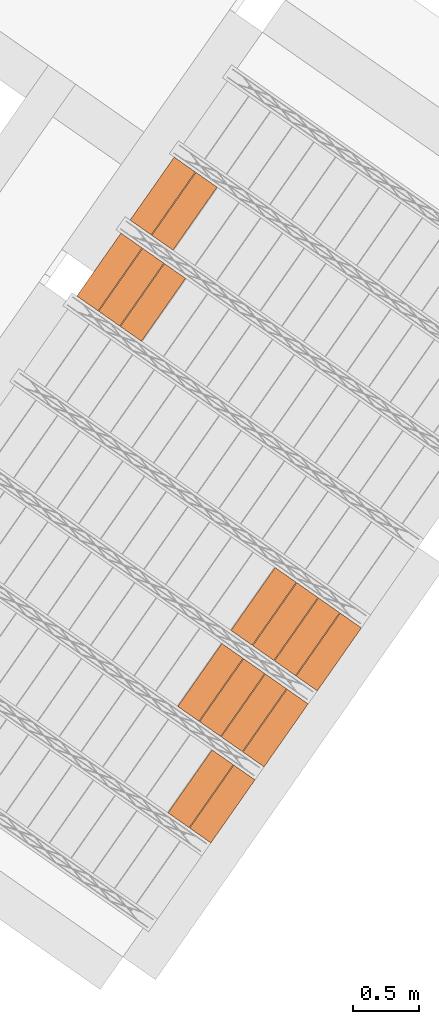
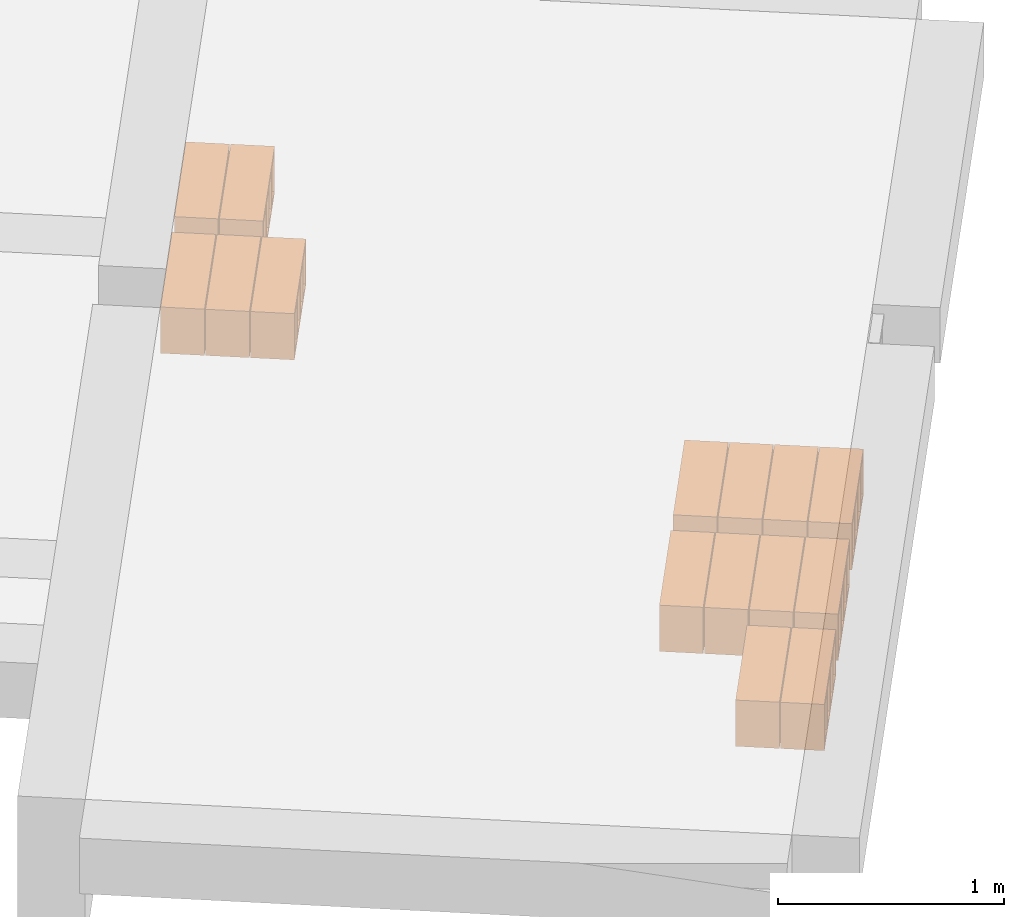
# One storey, part 37 of 46: 15 proxies.
"""IFC2X3 building model written with IfcOpenShell, lengths in metres."""

import ifcopenshell
import ifcopenshell.guid

model = None  # the IFC model being written
_history = None  # IfcOwnerHistory: only IFC2X3 demands one
_inside = {}  # id of a spatial element -> (the spatial element, [elements in it])
_under = {}  # id of a project, library or spatial element -> (it, [spatial elements below it])
_declared = {}  # id of a project -> (the project, [libraries it declares])
_typed = {}  # id of a type object -> (the type object, [elements of that type])
_made_of = {}  # id of a material, layer set ... -> (it, [elements and type objects made of it])


def new_model(schema):
    """Start an empty IFC model of exactly this schema.

    Asked for "IFC4X3", IfcOpenShell would pick the latest addendum, in which some entities
    have other attributes; the version numbers below select the first issue.
    IFC2X3 requires an IfcOwnerHistory on every rooted entity: one is made here for all.
    """
    global model, _history
    if schema == "IFC4X3":
        model = ifcopenshell.file(schema_version=(4, 3, 0, 0))
    else:
        model = ifcopenshell.file(schema=schema)
    _inside.clear()
    _under.clear()
    _declared.clear()
    _typed.clear()
    _made_of.clear()
    _history = None
    if model.schema == "IFC2X3":
        org = make("IfcOrganization", Name="unknown")
        user = make(
            "IfcPersonAndOrganization",
            ThePerson=make("IfcPerson", FamilyName="unknown"),
            TheOrganization=org,
        )
        app = make(
            "IfcApplication",
            ApplicationDeveloper=org,
            Version="unknown",
            ApplicationFullName="unknown",
            ApplicationIdentifier="unknown",
        )
        _history = make(
            "IfcOwnerHistory",
            OwningUser=user,
            OwningApplication=app,
            ChangeAction="ADDED",
            CreationDate=0,
        )
    return model


def make(cls, **values):
    """One entity of the class cls with the attributes given. An attribute that is None is left unset."""
    return model.create_entity(
        cls, **{name: value for name, value in values.items() if value is not None}
    )


def entity(cls, *values):
    """Any entity or typed value of the class cls, its attributes in the order of the schema. None: left unset."""
    e = model.create_entity(cls)
    for i, value in enumerate(values):
        if value is not None:
            e[i] = value
    return e


def rooted(cls, **values):
    """An entity with a GlobalId (a new one), such as an element, a storey or a relation."""
    return make(cls, GlobalId=ifcopenshell.guid.new(), OwnerHistory=_history, **values)


def si_unit(unit_type, name, prefix=None):
    """IfcSIUnit, for example si_unit("LENGTHUNIT", "METRE", prefix="MILLI")."""
    return make("IfcSIUnit", UnitType=unit_type, Prefix=prefix, Name=name)


def converted_unit(unit_type, name, factor, base, dimensions=None, offset=None):
    """IfcConversionBasedUnit, such as the inch: factor (a typed value) times the base unit."""
    return make(
        "IfcConversionBasedUnit"
        if offset is None
        else "IfcConversionBasedUnitWithOffset",
        ConversionOffset=offset,
        Dimensions=None
        if dimensions is None
        else entity("IfcDimensionalExponents", *dimensions),
        UnitType=unit_type,
        Name=name,
        ConversionFactor=make(
            "IfcMeasureWithUnit", ValueComponent=factor, UnitComponent=base
        ),
    )


def derived_unit(unit_type, elements):
    """IfcDerivedUnit: a product of units, each with its exponent."""
    return make(
        "IfcDerivedUnit",
        Elements=[
            make("IfcDerivedUnitElement", Unit=unit, Exponent=power)
            for unit, power in elements
        ],
        UnitType=unit_type,
    )


def assignment(units):
    """IfcUnitAssignment: the units of a project."""
    return None if units is None else make("IfcUnitAssignment", Units=units)


def point(xyz):
    """IfcCartesianPoint."""
    return None if xyz is None else make("IfcCartesianPoint", Coordinates=xyz)


def direction(xyz):
    """IfcDirection."""
    return None if xyz is None else make("IfcDirection", DirectionRatios=xyz)


def frame(location, z_axis=None, x_axis=None):
    """IfcAxis2Placement3D, a coordinate frame: its origin and axes. An axis left out is left unset."""
    return make(
        "IfcAxis2Placement3D",
        Location=point(location),
        Axis=direction(z_axis),
        RefDirection=direction(x_axis),
    )


def origin():
    """The frame at (0, 0, 0) with its axes left unset."""
    return frame((0.0, 0.0, 0.0))


def place(relative_to, where):
    """IfcLocalPlacement: puts the frame where relative to a parent placement (None: the world)."""
    return make(
        "IfcLocalPlacement", PlacementRelTo=relative_to, RelativePlacement=where
    )


def context(
    kind, dimensions, precision=None, world=None, true_north=None, identifier=None
):
    """IfcGeometricRepresentationContext, for example the 3D "Model" context."""
    return make(
        "IfcGeometricRepresentationContext",
        ContextIdentifier=identifier,
        ContextType=kind,
        CoordinateSpaceDimension=dimensions,
        Precision=precision,
        WorldCoordinateSystem=world,
        TrueNorth=true_north,
    )


def subcontext(parent, identifier, kind, view, scale=None):
    """IfcGeometricRepresentationSubContext, for example "Body" below "Model"."""
    return make(
        "IfcGeometricRepresentationSubContext",
        ContextIdentifier=identifier,
        ContextType=kind,
        ParentContext=parent,
        TargetScale=scale,
        TargetView=view,
    )


def project(units=None, contexts=None):
    """IfcProject with its units and contexts."""
    return rooted(
        "IfcProject",
        Name="project",
        RepresentationContexts=contexts,
        UnitsInContext=assignment(units),
    )


def spatial(cls, under=None, at=None, **own):
    """A site, building, storey or space (cls), placed at a placement, below another one or the project."""
    s = rooted(cls, ObjectPlacement=at, **own)
    if under is not None:
        _under.setdefault(under.id(), (under, []))[1].append(s)
    return s


def polyline(points):
    """IfcPolyline through the points."""
    return make("IfcPolyline", Points=[point(p) for p in points])


def outline(outer, holes=None, kind="AREA"):
    """IfcArbitraryClosedProfileDef: a profile drawn as a closed curve; with holes, ...WithVoids."""
    if holes is None:
        return make("IfcArbitraryClosedProfileDef", ProfileType=kind, OuterCurve=outer)
    return make(
        "IfcArbitraryProfileDefWithVoids",
        ProfileType=kind,
        OuterCurve=outer,
        InnerCurves=holes,
    )


def extrude(swept, where, along, depth):
    """IfcExtrudedAreaSolid: the profile swept, set in the frame where, extruded along a direction by depth."""
    return make(
        "IfcExtrudedAreaSolid",
        SweptArea=swept,
        Position=where,
        ExtrudedDirection=direction(along),
        Depth=depth,
    )


def shape(context_of_items, identifier, shape_type, items):
    """IfcShapeRepresentation: the items that make up one representation, for example the "Body"."""
    return make(
        "IfcShapeRepresentation",
        ContextOfItems=context_of_items,
        RepresentationIdentifier=identifier,
        RepresentationType=shape_type,
        Items=items,
    )


def made_of(thing, what):
    """Note that an element or type object is made of a material, layer set ...; save() writes the relation."""
    if what is not None:
        _made_of.setdefault(what.id(), (what, []))[1].append(thing)
    return thing


def type_object(cls, material=None, **own):
    """A type object (cls), such as IfcWallType, which elements share."""
    return made_of(rooted(cls, **own), material)


def element(
    cls,
    number,
    at=None,
    inside=None,
    cuts=None,
    type_object=None,
    material=None,
    context=None,
    identifier="Body",
    shape_type=None,
    held_by="IfcProductDefinitionShape",
    body=None,
    shapes=None,
    **own,
):
    """One element of the class cls, such as IfcWall. Its Tag is "e" and its number.

    at: its placement. inside: the storey or other place that contains it. cuts: it is an
    opening in that element (IfcRelVoidsElement). A single representation is given by context,
    identifier, shape_type and body (its items); several are given by shapes. held_by: the class
    of the entity that holds the representations. save() writes the other relations.
    """
    e = rooted(cls, Tag="e%d" % number, ObjectPlacement=at, **own)
    if body is not None:
        shapes = [shape(context, identifier, shape_type, body)]
    if shapes is not None:
        e.Representation = make(held_by, Representations=shapes)
    if inside is not None:
        _inside.setdefault(inside.id(), (inside, []))[1].append(e)
    if cuts is not None:
        rooted(
            "IfcRelVoidsElement", RelatingBuildingElement=cuts, RelatedOpeningElement=e
        )
    if type_object is not None:
        _typed.setdefault(type_object.id(), (type_object, []))[1].append(e)
    return made_of(e, material)


def aggregate(whole, parts):
    """IfcRelAggregates: a whole, such as a stair, and the parts it consists of."""
    return rooted("IfcRelAggregates", RelatingObject=whole, RelatedObjects=parts)


def save(model, path):
    """Write the relations noted so far, then the file.

    IfcRelAggregates (storeys below a building ...), IfcRelContainedInSpatialStructure (elements
    in a storey), IfcRelDefinesByType, IfcRelAssociatesMaterial and IfcRelDeclares: one each for
    every whole, place, type object, material and project.
    """
    for whole, parts in _under.values():
        aggregate(whole, parts)
    for where, things in _inside.values():
        rooted(
            "IfcRelContainedInSpatialStructure",
            RelatedElements=things,
            RelatingStructure=where,
        )
    for kind, things in _typed.values():
        rooted("IfcRelDefinesByType", RelatedObjects=things, RelatingType=kind)
    for what, things in _made_of.values():
        rooted("IfcRelAssociatesMaterial", RelatedObjects=things, RelatingMaterial=what)
    for by, libraries in _declared.values():
        rooted("IfcRelDeclares", RelatingContext=by, RelatedDefinitions=libraries)
    model.write(path)


model = new_model("IFC2X3")

# Units and contexts
model_context = context("Model", 3, precision=1e-05, world=origin(), true_north=direction((6.123031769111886e-17, 1.0)))
body_context = subcontext(model_context, "Body", "Model", "MODEL_VIEW")
ifc_project = project(units=[si_unit("LENGTHUNIT", "METRE"), si_unit("AREAUNIT", "SQUARE_METRE"), si_unit("VOLUMEUNIT", "CUBIC_METRE"), converted_unit("PLANEANGLEUNIT", "DEGREE", entity("IfcPlaneAngleMeasure", 0.017453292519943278), si_unit("PLANEANGLEUNIT", "RADIAN"), dimensions=[0, 0, 0, 0, 0, 0, 0]), si_unit("MASSUNIT", "GRAM", prefix="KILO"), derived_unit("MASSDENSITYUNIT", [(si_unit("MASSUNIT", "GRAM", prefix="KILO"), 1), (si_unit("LENGTHUNIT", "METRE"), -3)]), derived_unit("IONCONCENTRATIONUNIT", [(si_unit("MASSUNIT", "GRAM", prefix="KILO"), 1), (si_unit("LENGTHUNIT", "METRE"), -3)]), derived_unit("MOMENTOFINERTIAUNIT", [(si_unit("LENGTHUNIT", "METRE"), 4)]), si_unit("TIMEUNIT", "SECOND"), si_unit("FREQUENCYUNIT", "HERTZ"), si_unit("THERMODYNAMICTEMPERATUREUNIT", "DEGREE_CELSIUS"), derived_unit("THERMALTRANSMITTANCEUNIT", [(si_unit("MASSUNIT", "GRAM", prefix="KILO"), 1), (si_unit("THERMODYNAMICTEMPERATUREUNIT", "KELVIN"), -1), (si_unit("TIMEUNIT", "SECOND"), -3)]), derived_unit("THERMALCONDUCTANCEUNIT", [(si_unit("MASSUNIT", "GRAM", prefix="KILO"), 1), (si_unit("THERMODYNAMICTEMPERATUREUNIT", "KELVIN"), -1), (si_unit("TIMEUNIT", "SECOND"), -3), (si_unit("LENGTHUNIT", "METRE"), 1)]), derived_unit("VOLUMETRICFLOWRATEUNIT", [(si_unit("LENGTHUNIT", "METRE", prefix="DECI"), 3), (si_unit("TIMEUNIT", "SECOND"), -1)]), derived_unit("MASSFLOWRATEUNIT", [(si_unit("MASSUNIT", "GRAM", prefix="KILO"), 1), (si_unit("TIMEUNIT", "SECOND"), -1)]), derived_unit("ROTATIONALFREQUENCYUNIT", [(si_unit("TIMEUNIT", "SECOND"), -1)]), si_unit("ELECTRICCURRENTUNIT", "AMPERE"), si_unit("ELECTRICVOLTAGEUNIT", "VOLT"), si_unit("POWERUNIT", "WATT"), si_unit("FORCEUNIT", "NEWTON", prefix="KILO"), si_unit("ILLUMINANCEUNIT", "LUX"), si_unit("LUMINOUSFLUXUNIT", "LUMEN"), si_unit("LUMINOUSINTENSITYUNIT", "CANDELA"), si_unit("ENERGYUNIT", "JOULE"), derived_unit("USERDEFINED", [(si_unit("MASSUNIT", "GRAM", prefix="KILO"), -1), (si_unit("LENGTHUNIT", "METRE"), -2), (si_unit("TIMEUNIT", "SECOND"), 3), (si_unit("LUMINOUSFLUXUNIT", "LUMEN"), 1)]), derived_unit("USERDEFINED", [(si_unit("MASSUNIT", "GRAM", prefix="KILO"), 1), (si_unit("TIMEUNIT", "SECOND"), -3), (si_unit("LENGTHUNIT", "METRE"), 3), (si_unit("ELECTRICCURRENTUNIT", "AMPERE"), -2)]), derived_unit("SOUNDPOWERUNIT", [(si_unit("MASSUNIT", "GRAM", prefix="KILO"), 1), (si_unit("TIMEUNIT", "SECOND"), -3), (si_unit("LENGTHUNIT", "METRE"), 2)]), derived_unit("SOUNDPRESSUREUNIT", [(si_unit("MASSUNIT", "GRAM", prefix="KILO"), 1), (si_unit("LENGTHUNIT", "METRE"), -1), (si_unit("TIMEUNIT", "SECOND"), -2)]), derived_unit("LINEARVELOCITYUNIT", [(si_unit("LENGTHUNIT", "METRE"), 1), (si_unit("TIMEUNIT", "SECOND"), -1)]), si_unit("PRESSUREUNIT", "PASCAL"), derived_unit("USERDEFINED", [(si_unit("MASSUNIT", "GRAM", prefix="KILO"), 1), (si_unit("LENGTHUNIT", "METRE"), -2), (si_unit("TIMEUNIT", "SECOND"), -2)]), derived_unit("LINEARFORCEUNIT", [(si_unit("MASSUNIT", "GRAM", prefix="KILO"), 1), (si_unit("TIMEUNIT", "SECOND"), -2)]), derived_unit("PLANARFORCEUNIT", [(si_unit("MASSUNIT", "GRAM", prefix="KILO"), 1), (si_unit("LENGTHUNIT", "METRE"), -1), (si_unit("TIMEUNIT", "SECOND"), -2)]), derived_unit("SPECIFICHEATCAPACITYUNIT", [(si_unit("THERMODYNAMICTEMPERATUREUNIT", "KELVIN"), -1), (si_unit("LENGTHUNIT", "METRE"), 2), (si_unit("TIMEUNIT", "SECOND"), -2)]), derived_unit("HEATFLUXDENSITYUNIT", [(si_unit("MASSUNIT", "GRAM", prefix="KILO"), 1), (si_unit("TIMEUNIT", "SECOND"), -3)]), derived_unit("HEATINGVALUEUNIT", [(si_unit("LENGTHUNIT", "METRE"), 2), (si_unit("TIMEUNIT", "SECOND"), -2)]), derived_unit("VAPORPERMEABILITYUNIT", [(si_unit("LENGTHUNIT", "METRE"), -1), (si_unit("TIMEUNIT", "SECOND"), 1)]), derived_unit("DYNAMICVISCOSITYUNIT", [(si_unit("MASSUNIT", "GRAM", prefix="KILO"), 1), (si_unit("TIMEUNIT", "SECOND"), -1), (si_unit("LENGTHUNIT", "METRE"), -1)]), derived_unit("THERMALEXPANSIONCOEFFICIENTUNIT", [(si_unit("THERMODYNAMICTEMPERATUREUNIT", "KELVIN"), -1)]), derived_unit("MODULUSOFELASTICITYUNIT", [(si_unit("MASSUNIT", "GRAM", prefix="KILO"), 1), (si_unit("LENGTHUNIT", "METRE"), -1), (si_unit("TIMEUNIT", "SECOND"), -2)]), derived_unit("ISOTHERMALMOISTURECAPACITYUNIT", [(si_unit("MASSUNIT", "GRAM", prefix="KILO"), -1), (si_unit("LENGTHUNIT", "METRE"), 3)]), derived_unit("MOISTUREDIFFUSIVITYUNIT", [(si_unit("TIMEUNIT", "SECOND"), -1), (si_unit("LENGTHUNIT", "METRE"), 2)]), derived_unit("MASSPERLENGTHUNIT", [(si_unit("MASSUNIT", "GRAM", prefix="KILO"), 1), (si_unit("LENGTHUNIT", "METRE"), -1)]), derived_unit("THERMALRESISTANCEUNIT", [(si_unit("MASSUNIT", "GRAM", prefix="KILO"), -1), (si_unit("TIMEUNIT", "SECOND"), 3), (si_unit("THERMODYNAMICTEMPERATUREUNIT", "KELVIN"), 1)]), derived_unit("ACCELERATIONUNIT", [(si_unit("LENGTHUNIT", "METRE"), 1), (si_unit("TIMEUNIT", "SECOND"), -2)]), derived_unit("ANGULARVELOCITYUNIT", [(si_unit("TIMEUNIT", "SECOND"), -1), (si_unit("PLANEANGLEUNIT", "RADIAN"), 1)]), derived_unit("LINEARSTIFFNESSUNIT", [(si_unit("MASSUNIT", "GRAM", prefix="KILO"), 1), (si_unit("TIMEUNIT", "SECOND"), -2)]), derived_unit("WARPINGCONSTANTUNIT", [(si_unit("LENGTHUNIT", "METRE"), 6)]), derived_unit("LINEARMOMENTUNIT", [(si_unit("MASSUNIT", "GRAM", prefix="KILO"), 1), (si_unit("LENGTHUNIT", "METRE"), 1), (si_unit("TIMEUNIT", "SECOND"), -2)]), derived_unit("TORQUEUNIT", [(si_unit("MASSUNIT", "GRAM", prefix="KILO"), 1), (si_unit("LENGTHUNIT", "METRE"), 2), (si_unit("TIMEUNIT", "SECOND"), -2)])], contexts=[model_context])

# Site, building, storey
site_placement = place(None, origin())
site = spatial("IfcSite", under=ifc_project, at=site_placement, Name="Default", CompositionType="ELEMENT")
building_placement = place(site_placement, origin())
building = spatial("IfcBuilding", under=site, at=building_placement, CompositionType="ELEMENT")
storey_placement = place(building_placement, frame((0.0, 0.0, 99.52000000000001)))
storey = spatial("IfcBuildingStorey", under=building, at=storey_placement, Name="F1", CompositionType="ELEMENT", Elevation=99.52000000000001)

# Proxies
building_element_proxy_type_1 = type_object("IfcBuildingElementProxyType", Name="Bovedilla 2-1 (Paño 4)", PredefinedType="USERDEFINED")
proxy_1_placement = place(storey_placement, origin())
element("IfcBuildingElementProxy", 1, at=proxy_1_placement, inside=storey, type_object=building_element_proxy_type_1, Name="Bovedilla 2-1 (Paño 4)", ObjectType="FORM", context=body_context, shape_type="SweptSolid", body=[
    extrude(outline(polyline([(-0.29, -0.12500000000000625), (0.28999999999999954, -0.12500000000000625), (0.28999999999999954, 0.12500000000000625), (-0.29, 0.12500000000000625), (-0.29, -0.12500000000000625)]), holes=[polyline([(0.26999999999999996, -0.10499999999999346), (0.15500000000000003, -0.10499999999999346), (0.15500000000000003, 0.10499999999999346), (0.26999999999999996, 0.10499999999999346), (0.26999999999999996, 0.042499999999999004), (0.26999999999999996, -0.10499999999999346)]), polyline([(0.009999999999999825, -0.10499999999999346), (0.009999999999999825, 0.10499999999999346), (0.13499999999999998, 0.10499999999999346), (0.13499999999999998, -0.10499999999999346), (0.009999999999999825, -0.10499999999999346)]), polyline([(-0.13499999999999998, 0.10499999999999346), (-0.009999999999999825, 0.10499999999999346), (-0.009999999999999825, -0.10499999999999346), (-0.13499999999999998, -0.10499999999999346), (-0.13499999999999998, 0.10499999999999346)]), polyline([(-0.27000000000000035, -0.10499999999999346), (-0.27000000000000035, 0.042499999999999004), (-0.27000000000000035, 0.10499999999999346), (-0.15500000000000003, 0.10499999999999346), (-0.15500000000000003, -0.10499999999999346), (-0.27000000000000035, -0.10499999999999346)])]), frame((7.551992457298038, -4.677230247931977, 0.3249999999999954), z_axis=(0.8191520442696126, -0.5735764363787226, 0.0), x_axis=(-0.5735764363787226, -0.8191520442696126, 0.0)), (0.0, 0.0, 1.0), 0.19499999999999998),
])
building_element_proxy_type_2 = type_object("IfcBuildingElementProxyType", Name="Bovedilla 2-2 (Paño 4)", PredefinedType="USERDEFINED")
proxy_2_placement = place(storey_placement, origin())
element("IfcBuildingElementProxy", 2, at=proxy_2_placement, inside=storey, type_object=building_element_proxy_type_2, Name="Bovedilla 2-2 (Paño 4)", ObjectType="FORM", context=body_context, shape_type="SweptSolid", body=[
    extrude(outline(polyline([(-0.29, -0.12500000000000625), (0.29, -0.12500000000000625), (0.29, 0.12500000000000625), (-0.29, 0.12500000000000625), (-0.29, -0.12500000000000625)]), holes=[polyline([(0.27000000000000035, -0.10499999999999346), (0.15500000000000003, -0.10499999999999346), (0.15500000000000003, 0.10499999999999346), (0.27000000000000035, 0.10499999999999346), (0.27000000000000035, 0.042499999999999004), (0.27000000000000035, -0.10499999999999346)]), polyline([(0.009999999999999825, -0.10499999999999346), (0.009999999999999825, 0.10499999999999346), (0.13499999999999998, 0.10499999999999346), (0.13499999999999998, -0.10499999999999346), (0.009999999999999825, -0.10499999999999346)]), polyline([(-0.13499999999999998, 0.10499999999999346), (-0.009999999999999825, 0.10499999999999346), (-0.009999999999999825, -0.10499999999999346), (-0.13499999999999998, -0.10499999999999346), (-0.13499999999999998, 0.10499999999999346)]), polyline([(-0.27000000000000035, -0.10499999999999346), (-0.27000000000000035, 0.042499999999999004), (-0.27000000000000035, 0.10499999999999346), (-0.15500000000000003, 0.10499999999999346), (-0.15500000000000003, -0.10499999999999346), (-0.27000000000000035, -0.10499999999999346)])]), frame((7.388162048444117, -4.562514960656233, 0.3249999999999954), z_axis=(0.819152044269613, -0.5735764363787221, 0.0), x_axis=(-0.5735764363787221, -0.819152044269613, 0.0)), (0.0, 0.0, 1.0), 0.19499999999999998),
])
building_element_proxy_type_3 = type_object("IfcBuildingElementProxyType", Name="Bovedilla 3-1 (Paño 4)", PredefinedType="USERDEFINED")
proxy_3_placement = place(storey_placement, origin())
element("IfcBuildingElementProxy", 3, at=proxy_3_placement, inside=storey, type_object=building_element_proxy_type_3, Name="Bovedilla 3-1 (Paño 4)", ObjectType="FORM", context=body_context, shape_type="SweptSolid", body=[
    extrude(outline(polyline([(-0.29, -0.12500000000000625), (0.29, -0.12500000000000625), (0.29, 0.12500000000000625), (-0.29, 0.12500000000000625), (-0.29, -0.12500000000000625)]), holes=[polyline([(0.27000000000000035, -0.10499999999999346), (0.15500000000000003, -0.10499999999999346), (0.15500000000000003, 0.10499999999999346), (0.27000000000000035, 0.10499999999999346), (0.27000000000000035, 0.042499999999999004), (0.27000000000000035, -0.10499999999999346)]), polyline([(0.009999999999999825, -0.10499999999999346), (0.009999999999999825, 0.10499999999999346), (0.13499999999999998, 0.10499999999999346), (0.13499999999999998, -0.10499999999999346), (0.009999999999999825, -0.10499999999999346)]), polyline([(-0.13499999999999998, 0.10499999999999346), (-0.009999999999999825, 0.10499999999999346), (-0.009999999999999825, -0.10499999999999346), (-0.13499999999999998, -0.10499999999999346), (-0.13499999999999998, 0.10499999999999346)]), polyline([(-0.27000000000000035, -0.10499999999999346), (-0.27000000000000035, 0.042499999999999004), (-0.27000000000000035, 0.10499999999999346), (-0.15500000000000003, 0.10499999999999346), (-0.15500000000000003, -0.10499999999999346), (-0.27000000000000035, -0.10499999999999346)])]), frame((7.953495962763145, -4.1038238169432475, 0.3249999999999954), z_axis=(0.819152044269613, -0.5735764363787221, 0.0), x_axis=(-0.5735764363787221, -0.819152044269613, 0.0)), (0.0, 0.0, 1.0), 0.19499999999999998),
])
building_element_proxy_type_4 = type_object("IfcBuildingElementProxyType", Name="Bovedilla 3-2 (Paño 4)", PredefinedType="USERDEFINED")
proxy_4_placement = place(storey_placement, origin())
element("IfcBuildingElementProxy", 4, at=proxy_4_placement, inside=storey, type_object=building_element_proxy_type_4, Name="Bovedilla 3-2 (Paño 4)", ObjectType="FORM", context=body_context, shape_type="SweptSolid", body=[
    extrude(outline(polyline([(-0.29, -0.12500000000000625), (0.29, -0.12500000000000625), (0.29, 0.12500000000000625), (-0.29, 0.12500000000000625), (-0.29, -0.12500000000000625)]), holes=[polyline([(0.27000000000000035, -0.10499999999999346), (0.15500000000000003, -0.10499999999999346), (0.15500000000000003, 0.10499999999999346), (0.27000000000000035, 0.10499999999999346), (0.27000000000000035, 0.042499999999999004), (0.27000000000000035, -0.10499999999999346)]), polyline([(0.009999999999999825, -0.10499999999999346), (0.009999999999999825, 0.10499999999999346), (0.13499999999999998, 0.10499999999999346), (0.13499999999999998, -0.10499999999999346), (0.009999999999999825, -0.10499999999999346)]), polyline([(-0.13499999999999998, 0.10499999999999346), (-0.009999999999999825, 0.10499999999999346), (-0.009999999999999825, -0.10499999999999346), (-0.13499999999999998, -0.10499999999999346), (-0.13499999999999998, 0.10499999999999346)]), polyline([(-0.27000000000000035, -0.10499999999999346), (-0.27000000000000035, 0.042499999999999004), (-0.27000000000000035, 0.10499999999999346), (-0.15500000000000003, 0.10499999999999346), (-0.15500000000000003, -0.10499999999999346), (-0.27000000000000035, -0.10499999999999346)])]), frame((7.789665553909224, -3.989108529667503, 0.3249999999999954), z_axis=(0.819152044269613, -0.5735764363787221, 0.0), x_axis=(-0.5735764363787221, -0.819152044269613, 0.0)), (0.0, 0.0, 1.0), 0.19499999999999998),
])
building_element_proxy_type_5 = type_object("IfcBuildingElementProxyType", Name="Bovedilla 3-3 (Paño 4)", PredefinedType="USERDEFINED")
proxy_5_placement = place(storey_placement, origin())
element("IfcBuildingElementProxy", 5, at=proxy_5_placement, inside=storey, type_object=building_element_proxy_type_5, Name="Bovedilla 3-3 (Paño 4)", ObjectType="FORM", context=body_context, shape_type="SweptSolid", body=[
    extrude(outline(polyline([(-0.29, -0.12500000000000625), (0.29, -0.12500000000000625), (0.29, 0.12500000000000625), (-0.29, 0.12500000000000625), (-0.29, -0.12500000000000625)]), holes=[polyline([(0.27000000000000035, -0.10499999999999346), (0.15500000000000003, -0.10499999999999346), (0.15500000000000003, 0.10499999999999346), (0.27000000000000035, 0.10499999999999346), (0.27000000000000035, 0.042499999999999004), (0.27000000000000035, -0.10499999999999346)]), polyline([(0.009999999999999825, -0.10499999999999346), (0.009999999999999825, 0.10499999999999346), (0.13499999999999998, 0.10499999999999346), (0.13499999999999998, -0.10499999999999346), (0.009999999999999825, -0.10499999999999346)]), polyline([(-0.13499999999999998, 0.10499999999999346), (-0.009999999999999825, 0.10499999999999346), (-0.009999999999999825, -0.10499999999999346), (-0.13499999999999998, -0.10499999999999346), (-0.13499999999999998, 0.10499999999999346)]), polyline([(-0.27000000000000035, -0.10499999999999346), (-0.27000000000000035, 0.042499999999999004), (-0.27000000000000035, 0.10499999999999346), (-0.15500000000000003, 0.10499999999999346), (-0.15500000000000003, -0.10499999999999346), (-0.27000000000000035, -0.10499999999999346)])]), frame((7.625835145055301, -3.874393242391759, 0.3249999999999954), z_axis=(0.819152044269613, -0.5735764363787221, 0.0), x_axis=(-0.5735764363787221, -0.819152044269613, 0.0)), (0.0, 0.0, 1.0), 0.19499999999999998),
])
building_element_proxy_type_6 = type_object("IfcBuildingElementProxyType", Name="Bovedilla 3-4 (Paño 4)", PredefinedType="USERDEFINED")
proxy_6_placement = place(storey_placement, origin())
element("IfcBuildingElementProxy", 6, at=proxy_6_placement, inside=storey, type_object=building_element_proxy_type_6, Name="Bovedilla 3-4 (Paño 4)", ObjectType="FORM", context=body_context, shape_type="SweptSolid", body=[
    extrude(outline(polyline([(-0.29, -0.12500000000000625), (0.29, -0.12500000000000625), (0.29, 0.12500000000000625), (-0.29, 0.12500000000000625), (-0.29, -0.12500000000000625)]), holes=[polyline([(0.27000000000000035, -0.10499999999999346), (0.15500000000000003, -0.10499999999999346), (0.15500000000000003, 0.10499999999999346), (0.27000000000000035, 0.10499999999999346), (0.27000000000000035, 0.042499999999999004), (0.27000000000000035, -0.10499999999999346)]), polyline([(0.009999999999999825, -0.10499999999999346), (0.009999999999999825, 0.10499999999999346), (0.13499999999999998, 0.10499999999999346), (0.13499999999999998, -0.10499999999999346), (0.009999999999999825, -0.10499999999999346)]), polyline([(-0.13499999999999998, 0.10499999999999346), (-0.009999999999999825, 0.10499999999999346), (-0.009999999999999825, -0.10499999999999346), (-0.13499999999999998, -0.10499999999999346), (-0.13499999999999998, 0.10499999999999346)]), polyline([(-0.27000000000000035, -0.10499999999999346), (-0.27000000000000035, 0.042499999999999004), (-0.27000000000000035, 0.10499999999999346), (-0.15500000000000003, 0.10499999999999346), (-0.15500000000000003, -0.10499999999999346), (-0.27000000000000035, -0.10499999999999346)])]), frame((7.462004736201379, -3.7596779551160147, 0.3249999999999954), z_axis=(0.819152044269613, -0.5735764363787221, 0.0), x_axis=(-0.5735764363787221, -0.819152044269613, 0.0)), (0.0, 0.0, 1.0), 0.19499999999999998),
])
building_element_proxy_type_7 = type_object("IfcBuildingElementProxyType", Name="Bovedilla 4-1 (Paño 4)", PredefinedType="USERDEFINED")
proxy_7_placement = place(storey_placement, origin())
element("IfcBuildingElementProxy", 7, at=proxy_7_placement, inside=storey, type_object=building_element_proxy_type_7, Name="Bovedilla 4-1 (Paño 4)", ObjectType="FORM", context=body_context, shape_type="SweptSolid", body=[
    extrude(outline(polyline([(-0.29, -0.12500000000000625), (0.29, -0.12500000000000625), (0.29, 0.12500000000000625), (-0.29, 0.12500000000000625), (-0.29, -0.12500000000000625)]), holes=[polyline([(0.27000000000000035, -0.10499999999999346), (0.15500000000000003, -0.10499999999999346), (0.15500000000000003, 0.10499999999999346), (0.27000000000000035, 0.10499999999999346), (0.27000000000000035, 0.042499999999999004), (0.27000000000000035, -0.10499999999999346)]), polyline([(0.009999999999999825, -0.10499999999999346), (0.009999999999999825, 0.10499999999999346), (0.13499999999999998, 0.10499999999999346), (0.13499999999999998, -0.10499999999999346), (0.009999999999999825, -0.10499999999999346)]), polyline([(-0.13499999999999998, 0.10499999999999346), (-0.009999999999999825, 0.10499999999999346), (-0.009999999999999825, -0.10499999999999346), (-0.13499999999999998, -0.10499999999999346), (-0.13499999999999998, 0.10499999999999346)]), polyline([(-0.27000000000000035, -0.10499999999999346), (-0.27000000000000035, 0.042499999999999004), (-0.27000000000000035, 0.10499999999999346), (-0.15500000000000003, 0.10499999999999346), (-0.15500000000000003, -0.10499999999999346), (-0.27000000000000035, -0.10499999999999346)])]), frame((8.35499946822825, -3.5304173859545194, 0.3249999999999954), z_axis=(0.819152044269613, -0.5735764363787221, 0.0), x_axis=(-0.5735764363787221, -0.819152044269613, 0.0)), (0.0, 0.0, 1.0), 0.19499999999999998),
])
building_element_proxy_type_8 = type_object("IfcBuildingElementProxyType", Name="Bovedilla 4-2 (Paño 4)", PredefinedType="USERDEFINED")
proxy_8_placement = place(storey_placement, origin())
element("IfcBuildingElementProxy", 8, at=proxy_8_placement, inside=storey, type_object=building_element_proxy_type_8, Name="Bovedilla 4-2 (Paño 4)", ObjectType="FORM", context=body_context, shape_type="SweptSolid", body=[
    extrude(outline(polyline([(-0.29, -0.12500000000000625), (0.29, -0.12500000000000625), (0.29, 0.12500000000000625), (-0.29, 0.12500000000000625), (-0.29, -0.12500000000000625)]), holes=[polyline([(0.27000000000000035, -0.10499999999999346), (0.15500000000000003, -0.10499999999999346), (0.15500000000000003, 0.10499999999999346), (0.27000000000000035, 0.10499999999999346), (0.27000000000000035, 0.042499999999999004), (0.27000000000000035, -0.10499999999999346)]), polyline([(0.009999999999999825, -0.10499999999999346), (0.009999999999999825, 0.10499999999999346), (0.13499999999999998, 0.10499999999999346), (0.13499999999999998, -0.10499999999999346), (0.009999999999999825, -0.10499999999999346)]), polyline([(-0.13499999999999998, 0.10499999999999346), (-0.009999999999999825, 0.10499999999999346), (-0.009999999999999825, -0.10499999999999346), (-0.13499999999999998, -0.10499999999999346), (-0.13499999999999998, 0.10499999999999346)]), polyline([(-0.27000000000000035, -0.10499999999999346), (-0.27000000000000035, 0.042499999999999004), (-0.27000000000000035, 0.10499999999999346), (-0.15500000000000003, 0.10499999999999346), (-0.15500000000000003, -0.10499999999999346), (-0.27000000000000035, -0.10499999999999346)])]), frame((8.191169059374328, -3.415702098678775, 0.3249999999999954), z_axis=(0.819152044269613, -0.5735764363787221, 0.0), x_axis=(-0.5735764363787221, -0.819152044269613, 0.0)), (0.0, 0.0, 1.0), 0.19499999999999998),
])
building_element_proxy_type_9 = type_object("IfcBuildingElementProxyType", Name="Bovedilla 4-3 (Paño 4)", PredefinedType="USERDEFINED")
proxy_9_placement = place(storey_placement, origin())
element("IfcBuildingElementProxy", 9, at=proxy_9_placement, inside=storey, type_object=building_element_proxy_type_9, Name="Bovedilla 4-3 (Paño 4)", ObjectType="FORM", context=body_context, shape_type="SweptSolid", body=[
    extrude(outline(polyline([(-0.29, -0.12500000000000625), (0.29, -0.12500000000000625), (0.29, 0.12500000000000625), (-0.29, 0.12500000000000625), (-0.29, -0.12500000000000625)]), holes=[polyline([(0.27000000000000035, -0.10499999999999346), (0.15500000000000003, -0.10499999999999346), (0.15500000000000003, 0.10499999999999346), (0.27000000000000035, 0.10499999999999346), (0.27000000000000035, 0.042499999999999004), (0.27000000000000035, -0.10499999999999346)]), polyline([(0.009999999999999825, -0.10499999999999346), (0.009999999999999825, 0.10499999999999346), (0.13499999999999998, 0.10499999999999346), (0.13499999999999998, -0.10499999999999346), (0.009999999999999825, -0.10499999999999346)]), polyline([(-0.13499999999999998, 0.10499999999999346), (-0.009999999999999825, 0.10499999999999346), (-0.009999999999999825, -0.10499999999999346), (-0.13499999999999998, -0.10499999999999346), (-0.13499999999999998, 0.10499999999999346)]), polyline([(-0.27000000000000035, -0.10499999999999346), (-0.27000000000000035, 0.042499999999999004), (-0.27000000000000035, 0.10499999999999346), (-0.15500000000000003, 0.10499999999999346), (-0.15500000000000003, -0.10499999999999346), (-0.27000000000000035, -0.10499999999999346)])]), frame((8.027338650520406, -3.3009868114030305, 0.3249999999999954), z_axis=(0.819152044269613, -0.5735764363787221, 0.0), x_axis=(-0.5735764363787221, -0.819152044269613, 0.0)), (0.0, 0.0, 1.0), 0.19499999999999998),
])
building_element_proxy_type_10 = type_object("IfcBuildingElementProxyType", Name="Bovedilla 4-4 (Paño 4)", PredefinedType="USERDEFINED")
proxy_10_placement = place(storey_placement, origin())
element("IfcBuildingElementProxy", 10, at=proxy_10_placement, inside=storey, type_object=building_element_proxy_type_10, Name="Bovedilla 4-4 (Paño 4)", ObjectType="FORM", context=body_context, shape_type="SweptSolid", body=[
    extrude(outline(polyline([(-0.29, -0.12500000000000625), (0.29, -0.12500000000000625), (0.29, 0.12500000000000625), (-0.29, 0.12500000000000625), (-0.29, -0.12500000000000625)]), holes=[polyline([(0.27000000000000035, -0.10499999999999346), (0.15500000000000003, -0.10499999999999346), (0.15500000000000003, 0.10499999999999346), (0.27000000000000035, 0.10499999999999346), (0.27000000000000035, 0.042499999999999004), (0.27000000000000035, -0.10499999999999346)]), polyline([(0.009999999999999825, -0.10499999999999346), (0.009999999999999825, 0.10499999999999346), (0.13499999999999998, 0.10499999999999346), (0.13499999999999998, -0.10499999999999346), (0.009999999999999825, -0.10499999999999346)]), polyline([(-0.13499999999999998, 0.10499999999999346), (-0.009999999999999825, 0.10499999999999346), (-0.009999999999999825, -0.10499999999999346), (-0.13499999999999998, -0.10499999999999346), (-0.13499999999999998, 0.10499999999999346)]), polyline([(-0.27000000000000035, -0.10499999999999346), (-0.27000000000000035, 0.042499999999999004), (-0.27000000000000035, 0.10499999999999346), (-0.15500000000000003, 0.10499999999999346), (-0.15500000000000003, -0.10499999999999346), (-0.27000000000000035, -0.10499999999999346)])]), frame((7.863508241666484, -3.1862715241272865, 0.3249999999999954), z_axis=(0.819152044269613, -0.5735764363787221, 0.0), x_axis=(-0.5735764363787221, -0.819152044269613, 0.0)), (0.0, 0.0, 1.0), 0.19499999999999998),
])
building_element_proxy_type_11 = type_object("IfcBuildingElementProxyType", Name="Bovedilla 6-14 (Paño 4)", PredefinedType="USERDEFINED")
proxy_11_placement = place(storey_placement, origin())
element("IfcBuildingElementProxy", 11, at=proxy_11_placement, inside=storey, type_object=building_element_proxy_type_11, Name="Bovedilla 6-14 (Paño 4)", ObjectType="FORM", context=body_context, shape_type="SweptSolid", body=[
    extrude(outline(polyline([(-0.28999999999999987, -0.12500000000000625), (0.28999999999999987, -0.12500000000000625), (0.28999999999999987, 0.12500000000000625), (-0.28999999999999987, 0.12500000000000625), (-0.28999999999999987, -0.12500000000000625)]), holes=[polyline([(0.27000000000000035, -0.10499999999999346), (0.1549999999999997, -0.10499999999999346), (0.1549999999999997, 0.10499999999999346), (0.27000000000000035, 0.10499999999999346), (0.27000000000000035, 0.042499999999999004), (0.27000000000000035, -0.10499999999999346)]), polyline([(0.009999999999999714, -0.10499999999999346), (0.009999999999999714, 0.10499999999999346), (0.13500000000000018, 0.10499999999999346), (0.13500000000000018, -0.10499999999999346), (0.009999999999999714, -0.10499999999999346)]), polyline([(-0.13500000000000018, 0.10499999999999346), (-0.009999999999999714, 0.10499999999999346), (-0.009999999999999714, -0.10499999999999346), (-0.13500000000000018, -0.10499999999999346), (-0.13500000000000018, 0.10499999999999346)]), polyline([(-0.27000000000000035, -0.10499999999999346), (-0.27000000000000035, 0.042499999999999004), (-0.27000000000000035, 0.10499999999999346), (-0.1549999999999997, 0.10499999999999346), (-0.1549999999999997, -0.10499999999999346), (-0.27000000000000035, -0.10499999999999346)])]), frame((7.028211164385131, -0.8923057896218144, 0.3249999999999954), z_axis=(0.8191520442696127, -0.5735764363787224, 0.0), x_axis=(-0.5735764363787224, -0.8191520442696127, 0.0)), (0.0, 0.0, 1.0), 0.19499999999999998),
])
building_element_proxy_type_12 = type_object("IfcBuildingElementProxyType", Name="Bovedilla 6-15 (Paño 4)", PredefinedType="USERDEFINED")
proxy_12_placement = place(storey_placement, origin())
element("IfcBuildingElementProxy", 12, at=proxy_12_placement, inside=storey, type_object=building_element_proxy_type_12, Name="Bovedilla 6-15 (Paño 4)", ObjectType="FORM", context=body_context, shape_type="SweptSolid", body=[
    extrude(outline(polyline([(-0.2899999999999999, -0.12500000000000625), (0.28999999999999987, -0.12500000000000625), (0.28999999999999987, 0.12500000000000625), (-0.2899999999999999, 0.12500000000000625), (-0.2899999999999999, -0.12500000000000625)]), holes=[polyline([(0.27000000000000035, -0.10499999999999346), (0.15499999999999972, -0.10499999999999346), (0.15499999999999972, 0.10499999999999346), (0.27000000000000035, 0.10499999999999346), (0.27000000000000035, 0.042499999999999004), (0.27000000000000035, -0.10499999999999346)]), polyline([(0.009999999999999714, -0.10499999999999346), (0.009999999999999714, 0.10499999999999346), (0.13500000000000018, 0.10499999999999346), (0.13500000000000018, -0.10499999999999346), (0.009999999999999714, -0.10499999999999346)]), polyline([(-0.13500000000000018, 0.10499999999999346), (-0.009999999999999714, 0.10499999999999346), (-0.009999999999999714, -0.10499999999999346), (-0.13500000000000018, -0.10499999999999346), (-0.13500000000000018, 0.10499999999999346)]), polyline([(-0.2700000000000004, -0.10499999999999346), (-0.2700000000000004, 0.042499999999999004), (-0.2700000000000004, 0.10499999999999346), (-0.15499999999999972, 0.10499999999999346), (-0.15499999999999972, -0.10499999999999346), (-0.2700000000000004, -0.10499999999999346)])]), frame((6.864380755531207, -0.777590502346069, 0.3249999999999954), z_axis=(0.8191520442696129, -0.5735764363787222, 0.0), x_axis=(-0.5735764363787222, -0.8191520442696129, 0.0)), (0.0, 0.0, 1.0), 0.19499999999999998),
])
building_element_proxy_type_13 = type_object("IfcBuildingElementProxyType", Name="Bovedilla 6-16 (Paño 4)", PredefinedType="USERDEFINED")
proxy_13_placement = place(storey_placement, origin())
element("IfcBuildingElementProxy", 13, at=proxy_13_placement, inside=storey, type_object=building_element_proxy_type_13, Name="Bovedilla 6-16 (Paño 4)", ObjectType="FORM", context=body_context, shape_type="SweptSolid", body=[
    extrude(outline(polyline([(-0.2899999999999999, -0.12500000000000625), (0.28999999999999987, -0.12500000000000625), (0.28999999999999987, 0.12500000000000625), (-0.2899999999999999, 0.12500000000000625), (-0.2899999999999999, -0.12500000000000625)]), holes=[polyline([(0.27000000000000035, -0.10499999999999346), (0.15499999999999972, -0.10499999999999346), (0.15499999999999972, 0.10499999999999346), (0.27000000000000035, 0.10499999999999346), (0.27000000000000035, 0.042499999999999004), (0.27000000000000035, -0.10499999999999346)]), polyline([(0.009999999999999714, -0.10499999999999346), (0.009999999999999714, 0.10499999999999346), (0.13500000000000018, 0.10499999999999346), (0.13500000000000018, -0.10499999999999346), (0.009999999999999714, -0.10499999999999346)]), polyline([(-0.13500000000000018, 0.10499999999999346), (-0.009999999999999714, 0.10499999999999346), (-0.009999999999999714, -0.10499999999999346), (-0.13500000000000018, -0.10499999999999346), (-0.13500000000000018, 0.10499999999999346)]), polyline([(-0.2700000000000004, -0.10499999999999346), (-0.2700000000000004, 0.042499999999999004), (-0.2700000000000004, 0.10499999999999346), (-0.15499999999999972, 0.10499999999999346), (-0.15499999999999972, -0.10499999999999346), (-0.2700000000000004, -0.10499999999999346)])]), frame((6.700550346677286, -0.6628752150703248, 0.3249999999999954), z_axis=(0.8191520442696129, -0.5735764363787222, 0.0), x_axis=(-0.5735764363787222, -0.8191520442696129, 0.0)), (0.0, 0.0, 1.0), 0.19499999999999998),
])
building_element_proxy_type_14 = type_object("IfcBuildingElementProxyType", Name="Bovedilla 7-15 (Paño 4)", PredefinedType="USERDEFINED")
proxy_14_placement = place(storey_placement, origin())
element("IfcBuildingElementProxy", 14, at=proxy_14_placement, inside=storey, type_object=building_element_proxy_type_14, Name="Bovedilla 7-15 (Paño 4)", ObjectType="FORM", context=body_context, shape_type="SweptSolid", body=[
    extrude(outline(polyline([(-0.2899999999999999, -0.12500000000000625), (0.2899999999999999, -0.12500000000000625), (0.2899999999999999, 0.12500000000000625), (-0.2899999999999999, 0.12500000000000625), (-0.2899999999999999, -0.12500000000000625)]), holes=[polyline([(0.2700000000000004, -0.10499999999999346), (0.15499999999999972, -0.10499999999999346), (0.15499999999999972, 0.10499999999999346), (0.2700000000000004, 0.10499999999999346), (0.2700000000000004, 0.042499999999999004), (0.2700000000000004, -0.10499999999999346)]), polyline([(0.009999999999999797, -0.10499999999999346), (0.009999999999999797, 0.10499999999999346), (0.13500000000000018, 0.10499999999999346), (0.13500000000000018, -0.10499999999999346), (0.009999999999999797, -0.10499999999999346)]), polyline([(-0.1350000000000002, 0.10499999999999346), (-0.00999999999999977, 0.10499999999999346), (-0.009999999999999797, -0.10499999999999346), (-0.1350000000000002, -0.10499999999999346), (-0.1350000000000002, 0.10499999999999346)]), polyline([(-0.2700000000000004, -0.10499999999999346), (-0.2700000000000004, 0.042499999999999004), (-0.2700000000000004, 0.10499999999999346), (-0.15499999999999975, 0.10499999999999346), (-0.15499999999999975, -0.10499999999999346), (-0.2700000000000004, -0.10499999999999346)])]), frame((7.265884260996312, -0.20418407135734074, 0.3249999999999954), z_axis=(0.8191520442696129, -0.5735764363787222, 0.0), x_axis=(-0.5735764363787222, -0.8191520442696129, 0.0)), (0.0, 0.0, 1.0), 0.19499999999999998),
])
building_element_proxy_type_15 = type_object("IfcBuildingElementProxyType", Name="Bovedilla 7-16 (Paño 4)", PredefinedType="USERDEFINED")
proxy_15_placement = place(storey_placement, origin())
element("IfcBuildingElementProxy", 15, at=proxy_15_placement, inside=storey, type_object=building_element_proxy_type_15, Name="Bovedilla 7-16 (Paño 4)", ObjectType="FORM", context=body_context, shape_type="SweptSolid", body=[
    extrude(outline(polyline([(-0.2899999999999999, -0.12500000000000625), (0.2899999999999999, -0.12500000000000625), (0.2899999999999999, 0.12500000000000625), (-0.2899999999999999, 0.12500000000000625), (-0.2899999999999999, -0.12500000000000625)]), holes=[polyline([(0.2700000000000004, -0.10499999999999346), (0.15499999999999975, -0.10499999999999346), (0.15499999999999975, 0.10499999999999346), (0.2700000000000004, 0.10499999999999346), (0.2700000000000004, 0.042499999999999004), (0.2700000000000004, -0.10499999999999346)]), polyline([(0.00999999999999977, -0.10499999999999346), (0.00999999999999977, 0.10499999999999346), (0.1350000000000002, 0.10499999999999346), (0.1350000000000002, -0.10499999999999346), (0.00999999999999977, -0.10499999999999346)]), polyline([(-0.1350000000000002, 0.10499999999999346), (-0.009999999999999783, 0.10499999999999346), (-0.009999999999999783, -0.10499999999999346), (-0.1350000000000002, -0.10499999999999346), (-0.1350000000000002, 0.10499999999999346)]), polyline([(-0.2700000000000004, -0.10499999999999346), (-0.2700000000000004, 0.042499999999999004), (-0.2700000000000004, 0.10499999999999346), (-0.15499999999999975, 0.10499999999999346), (-0.15499999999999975, -0.10499999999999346), (-0.2700000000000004, -0.10499999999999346)])]), frame((7.102053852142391, -0.08946878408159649, 0.3249999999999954), z_axis=(0.8191520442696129, -0.5735764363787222, 0.0), x_axis=(-0.5735764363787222, -0.8191520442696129, 0.0)), (0.0, 0.0, 1.0), 0.19499999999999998),
])

save(model, "model.ifc")
